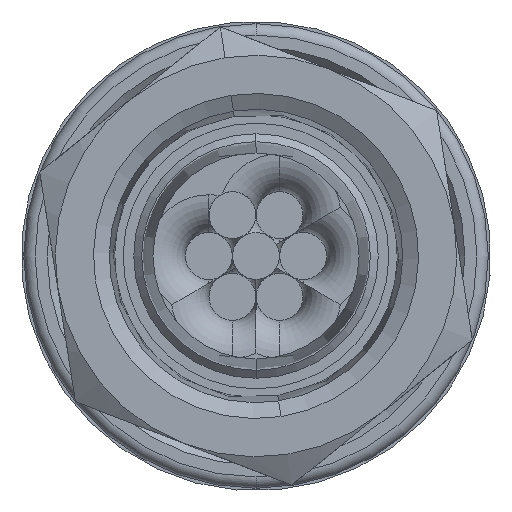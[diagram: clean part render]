
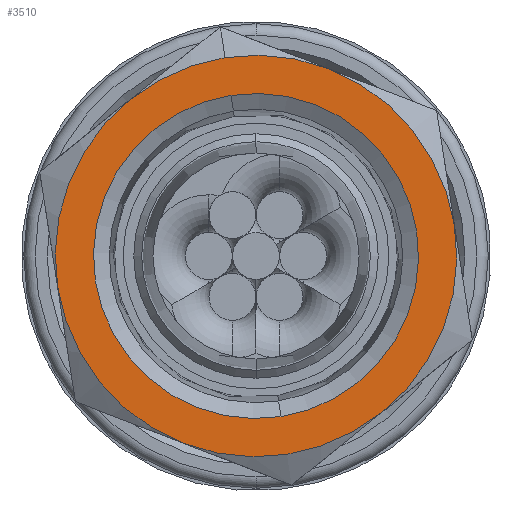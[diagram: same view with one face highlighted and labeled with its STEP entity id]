
A CAD part, front view. The second image highlights one B-rep face of the part: STEP entity #3510.
In plain terms, the highlighted planar face has unit normal (0, -1, 0).
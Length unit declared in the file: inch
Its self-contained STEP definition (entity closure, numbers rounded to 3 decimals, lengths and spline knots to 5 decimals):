
#29 = CIRCLE ( 'NONE', #1860, 0.53125 ) ;
#58 = DIRECTION ( 'NONE',  ( 0.154, 0., -0.988 ) ) ;
#92 = CIRCLE ( 'NONE', #3807, 0.43 ) ;
#164 = CIRCLE ( 'NONE', #1319, 0.53125 ) ;
#192 = VERTEX_POINT ( 'NONE', #1449 ) ;
#199 = CIRCLE ( 'NONE', #1571, 0.53125 ) ;
#227 = EDGE_CURVE ( 'NONE', #192, #1825, #2251, .T. ) ;
#239 = DIRECTION ( 'NONE',  ( 0., 1., 0. ) ) ;
#306 = CARTESIAN_POINT ( 'NONE',  ( -0.06616, -0.607, 0.42488 ) ) ;
#314 = CARTESIAN_POINT ( 'NONE',  ( 0., -0.607, 0. ) ) ;
#431 = EDGE_CURVE ( 'NONE', #1825, #2531, #199, .T. ) ;
#613 = CIRCLE ( 'NONE', #3746, 0.53125 ) ;
#682 = DIRECTION ( 'NONE',  ( 0.154, 0., -0.988 ) ) ;
#710 = CARTESIAN_POINT ( 'NONE',  ( -0.33325, -0.607, 0.41373 ) ) ;
#724 = CARTESIAN_POINT ( 'NONE',  ( 0., -0.607, 0. ) ) ;
#737 = CARTESIAN_POINT ( 'NONE',  ( 0., -0.607, 0. ) ) ;
#917 = EDGE_CURVE ( 'NONE', #1026, #192, #29, .T. ) ;
#944 = DIRECTION ( 'NONE',  ( 0.154, 0., -0.988 ) ) ;
#996 = EDGE_CURVE ( 'NONE', #3582, #4117, #1658, .T. ) ;
#1026 = VERTEX_POINT ( 'NONE', #4212 ) ;
#1094 = CARTESIAN_POINT ( 'NONE',  ( 0.33325, -0.607, -0.41373 ) ) ;
#1100 = CARTESIAN_POINT ( 'NONE',  ( -0.19167, -0.607, -0.49547 ) ) ;
#1103 = DIRECTION ( 'NONE',  ( 0.154, 0., -0.988 ) ) ;
#1126 = CARTESIAN_POINT ( 'NONE',  ( -0.08174, -0.607, 0.52492 ) ) ;
#1168 = ORIENTED_EDGE ( 'NONE', *, *, #3913, .F. ) ;
#1222 = CARTESIAN_POINT ( 'NONE',  ( 0., -0.607, 0. ) ) ;
#1273 = DIRECTION ( 'NONE',  ( 0., -1., 0. ) ) ;
#1319 = AXIS2_PLACEMENT_3D ( 'NONE', #1975, #3368, #2958 ) ;
#1384 = DIRECTION ( 'NONE',  ( 0.154, 0., -0.988 ) ) ;
#1396 = CIRCLE ( 'NONE', #2712, 0.53125 ) ;
#1398 = ORIENTED_EDGE ( 'NONE', *, *, #431, .F. ) ;
#1449 = CARTESIAN_POINT ( 'NONE',  ( 0.52492, -0.607, 0.08174 ) ) ;
#1473 = CIRCLE ( 'NONE', #2716, 0.53125 ) ;
#1537 = DIRECTION ( 'NONE',  ( 0.154, 0., -0.988 ) ) ;
#1558 = CARTESIAN_POINT ( 'NONE',  ( 0., -0.607, 0. ) ) ;
#1571 = AXIS2_PLACEMENT_3D ( 'NONE', #1978, #3371, #944 ) ;
#1648 = EDGE_CURVE ( 'NONE', #2793, #4030, #1473, .T. ) ;
#1653 = CARTESIAN_POINT ( 'NONE',  ( -0.52492, -0.607, -0.08174 ) ) ;
#1658 = CIRCLE ( 'NONE', #4017, 0.43 ) ;
#1695 = AXIS2_PLACEMENT_3D ( 'NONE', #2287, #1273, #1537 ) ;
#1825 = VERTEX_POINT ( 'NONE', #1094 ) ;
#1851 = ORIENTED_EDGE ( 'NONE', *, *, #4384, .F. ) ;
#1860 = AXIS2_PLACEMENT_3D ( 'NONE', #2283, #3668, #2345 ) ;
#1975 = CARTESIAN_POINT ( 'NONE',  ( 0., -0.607, 0. ) ) ;
#1978 = CARTESIAN_POINT ( 'NONE',  ( 0., -0.607, 0. ) ) ;
#2048 = CARTESIAN_POINT ( 'NONE',  ( 0.06616, -0.607, -0.42488 ) ) ;
#2147 = CARTESIAN_POINT ( 'NONE',  ( 0., -0.607, 0. ) ) ;
#2185 = DIRECTION ( 'NONE',  ( 0., 1., 0. ) ) ;
#2251 = CIRCLE ( 'NONE', #3550, 0.53125 ) ;
#2283 = CARTESIAN_POINT ( 'NONE',  ( 0., -0.607, 0. ) ) ;
#2287 = CARTESIAN_POINT ( 'NONE',  ( 0.6665, -0.607, -0.82746 ) ) ;
#2305 = ORIENTED_EDGE ( 'NONE', *, *, #3266, .F. ) ;
#2330 = ORIENTED_EDGE ( 'NONE', *, *, #1648, .F. ) ;
#2345 = DIRECTION ( 'NONE',  ( -0.154, 0., 0.988 ) ) ;
#2455 = DIRECTION ( 'NONE',  ( 0.154, 0., -0.988 ) ) ;
#2531 = VERTEX_POINT ( 'NONE', #1100 ) ;
#2712 = AXIS2_PLACEMENT_3D ( 'NONE', #1222, #239, #682 ) ;
#2716 = AXIS2_PLACEMENT_3D ( 'NONE', #737, #2185, #1103 ) ;
#2769 = ORIENTED_EDGE ( 'NONE', *, *, #227, .F. ) ;
#2793 = VERTEX_POINT ( 'NONE', #710 ) ;
#2857 = ORIENTED_EDGE ( 'NONE', *, *, #917, .F. ) ;
#2947 = ORIENTED_EDGE ( 'NONE', *, *, #996, .F. ) ;
#2958 = DIRECTION ( 'NONE',  ( 0.154, 0., -0.988 ) ) ;
#2961 = DIRECTION ( 'NONE',  ( 0., -1., 0. ) ) ;
#3007 = FACE_OUTER_BOUND ( 'NONE', #3573, .T. ) ;
#3033 = FACE_BOUND ( 'NONE', #3061, .T. ) ;
#3061 = EDGE_LOOP ( 'NONE', ( #1851, #2947 ) ) ;
#3166 = DIRECTION ( 'NONE',  ( 0.154, 0., -0.988 ) ) ;
#3266 = EDGE_CURVE ( 'NONE', #4030, #1026, #613, .T. ) ;
#3290 = ORIENTED_EDGE ( 'NONE', *, *, #3911, .F. ) ;
#3368 = DIRECTION ( 'NONE',  ( 0., 1., 0. ) ) ;
#3371 = DIRECTION ( 'NONE',  ( 0., 1., 0. ) ) ;
#3435 = DIRECTION ( 'NONE',  ( 0., -1., 0. ) ) ;
#3510 = ADVANCED_FACE ( 'NONE', ( #3033, #3007 ), #4403, .T. ) ;
#3550 = AXIS2_PLACEMENT_3D ( 'NONE', #724, #3780, #58 ) ;
#3573 = EDGE_LOOP ( 'NONE', ( #1168, #1398, #2769, #2857, #2305, #2330, #3290 ) ) ;
#3582 = VERTEX_POINT ( 'NONE', #306 ) ;
#3668 = DIRECTION ( 'NONE',  ( 0., 1., 0. ) ) ;
#3746 = AXIS2_PLACEMENT_3D ( 'NONE', #314, #4492, #3166 ) ;
#3780 = DIRECTION ( 'NONE',  ( 0., 1., 0. ) ) ;
#3807 = AXIS2_PLACEMENT_3D ( 'NONE', #2147, #3435, #1384 ) ;
#3911 = EDGE_CURVE ( 'NONE', #4267, #2793, #164, .T. ) ;
#3913 = EDGE_CURVE ( 'NONE', #2531, #4267, #1396, .T. ) ;
#4017 = AXIS2_PLACEMENT_3D ( 'NONE', #1558, #2961, #2455 ) ;
#4030 = VERTEX_POINT ( 'NONE', #1126 ) ;
#4117 = VERTEX_POINT ( 'NONE', #2048 ) ;
#4212 = CARTESIAN_POINT ( 'NONE',  ( 0.19167, -0.607, 0.49547 ) ) ;
#4267 = VERTEX_POINT ( 'NONE', #1653 ) ;
#4384 = EDGE_CURVE ( 'NONE', #4117, #3582, #92, .T. ) ;
#4403 = PLANE ( 'NONE',  #1695 ) ;
#4492 = DIRECTION ( 'NONE',  ( 0., 1., 0. ) ) ;
